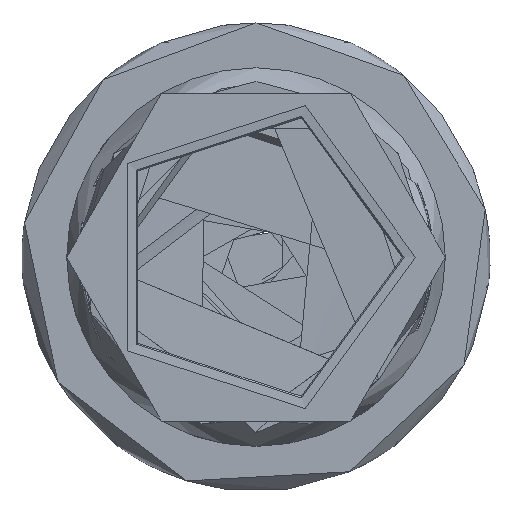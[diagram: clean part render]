
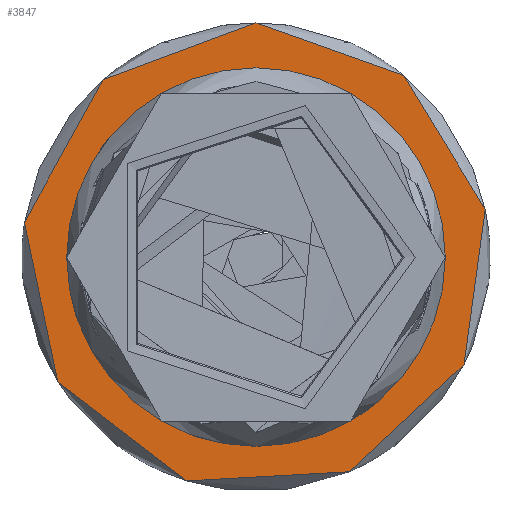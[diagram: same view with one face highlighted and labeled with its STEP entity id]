
A CAD part, front view. The second image highlights one B-rep face of the part: STEP entity #3847.
In plain terms, the highlighted planar face has unit normal (0, -1, 0).
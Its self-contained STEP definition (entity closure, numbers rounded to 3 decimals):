
#3333=PLANE('',#10412);
#3847=ADVANCED_FACE('',(#4255,#4256),#3333,.F.);
#4255=FACE_BOUND('',#4785,.T.);
#4256=FACE_BOUND('',#4786,.T.);
#4785=EDGE_LOOP('',(#6992));
#4786=EDGE_LOOP('',(#6993));
#6992=ORIENTED_EDGE('',*,*,#9445,.F.);
#6993=ORIENTED_EDGE('',*,*,#9444,.F.);
#8254=VERTEX_POINT('',#23401);
#8255=VERTEX_POINT('',#23404);
#9444=EDGE_CURVE('',#8254,#8254,#9841,.T.);
#9445=EDGE_CURVE('',#8255,#8255,#9842,.T.);
#9841=CIRCLE('',#10409,30.);
#9842=CIRCLE('',#10411,24.);
#10409=AXIS2_PLACEMENT_3D('',#23400,#12116,#12117);
#10411=AXIS2_PLACEMENT_3D('',#23403,#12120,#12121);
#10412=AXIS2_PLACEMENT_3D('',#23405,#12122,#12123);
#12116=DIRECTION('',(0.,1.,0.));
#12117=DIRECTION('',(0.,0.,1.));
#12120=DIRECTION('',(0.,-1.,0.));
#12121=DIRECTION('',(0.,0.,1.));
#12122=DIRECTION('',(0.,1.,0.));
#12123=DIRECTION('',(0.,0.,1.));
#23400=CARTESIAN_POINT('',(-18.2,24.2,0.));
#23401=CARTESIAN_POINT('',(-18.2,24.2,30.));
#23403=CARTESIAN_POINT('',(-18.2,24.2,0.));
#23404=CARTESIAN_POINT('',(-18.2,24.2,24.));
#23405=CARTESIAN_POINT('',(-18.2,24.2,0.));
